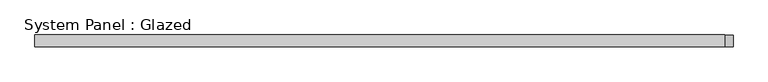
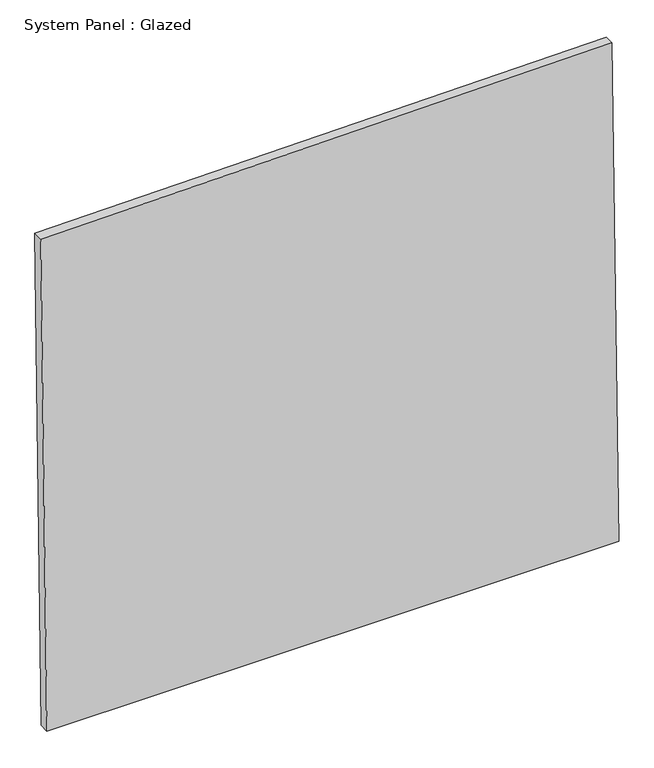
"""IFC4 building model written with IfcOpenShell, lengths in millimetres: plate geometry, System Panel : Glazed."""

from ifc_helpers import new_model, si_unit, frame, origin, place, context, project, spatial, polyline, outline, extrude, source, transform, mapped, element, save


def system_panel_glazed_f40b8df3(model_context):
    return source(origin(), model_context, "Body", "SweptSolid", [
        extrude(outline(polyline([(0.0, -712.9867976), (0.0, 728.6368745), (1333.3621443, 711.0216316), (1315.2810582, -728.6368745), (0.0, -712.9867976)])), frame((0.0, -49.5, 0.0), z_axis=(0.0, 1.0, 0.0), x_axis=(0.0, 0.0, 1.0)), (0.0, 0.0, 1.0), 25.0),
    ])


if __name__ == "__main__":
    model = new_model("IFC4")
    model_context = context("Model", 3, world=origin())
    ifc_project = project(units=[si_unit("LENGTHUNIT", "METRE", prefix="MILLI")], contexts=[model_context])
    site = spatial("IfcSite", under=ifc_project)
    building = spatial("IfcBuilding", under=site)
    placement = place(None, origin())
    system_panel_glazed_shape = system_panel_glazed_f40b8df3(model_context)
    element("IfcPlate", 1, ObjectType="System Panel : Glazed", at=placement, inside=building, context=model_context, shape_type="MappedRepresentation", body=[
        mapped(system_panel_glazed_shape, transform((0.0, 0.0, 0.0), x_axis=(1.0, 0.0, 0.0), y_axis=(0.0, 1.0, 0.0), z_axis=(0.0, 0.0, 1.0))),
    ])
    save(model, "model.ifc")
